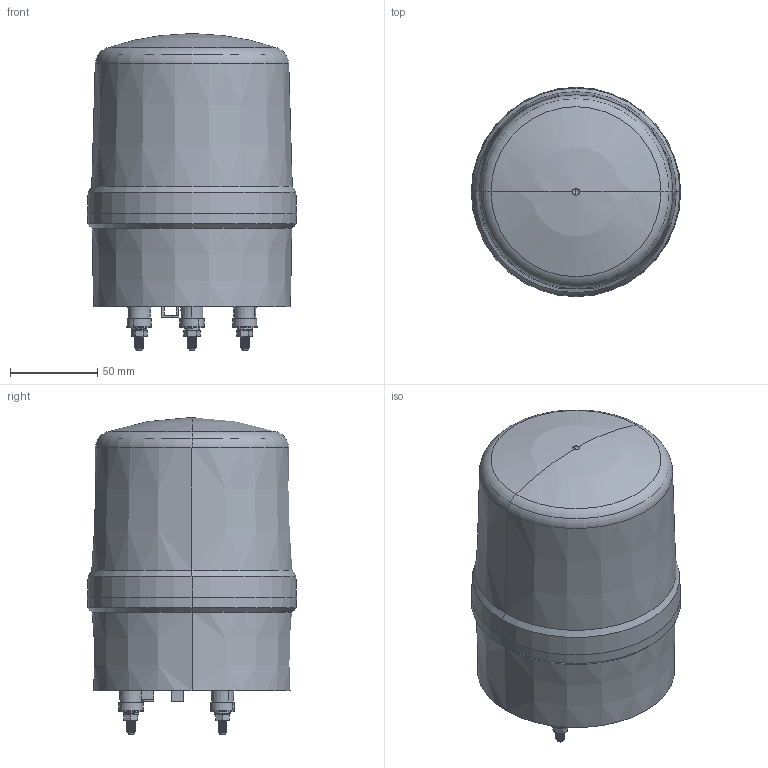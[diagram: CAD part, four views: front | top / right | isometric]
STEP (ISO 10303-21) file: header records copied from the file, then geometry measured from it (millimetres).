
FILE_DESCRIPTION((''),'2;1');
FILE_NAME('PRT0003','2016-06-18T',('Administrator'),(''),'PRO/ENGINEER BY PARAMETRIC TECHNOLOGY CORPORATION, 2012360','PRO/ENGINEER BY PARAMETRIC TECHNOLOGY CORPORATION, 2012360','');
FILE_SCHEMA(('CONFIG_CONTROL_DESIGN'));
Length unit declared in the file: millimetre
Products named in the file (1): PRT0003
Bounding box: 120 x 120 x 181.49 mm (x, y, z)
Volume: 191749.8 mm3; surface area: 162655.8 mm2
Topology: 1 solids, 1 shells, 910 faces, 2483 edges, 1586 vertices
Faces by surface type: cylinder 299, plane 288, bspline 187, cone 104, torus 14, sphere 12, extrusion 6
Entity records: 50698 total; most frequent: CARTESIAN_POINT 29611, ORIENTED_EDGE 4950, DIRECTION 3460, EDGE_CURVE 2475, VERTEX_POINT 1586, AXIS2_PLACEMENT_3D 1163, VECTOR 1134, LINE 1128
